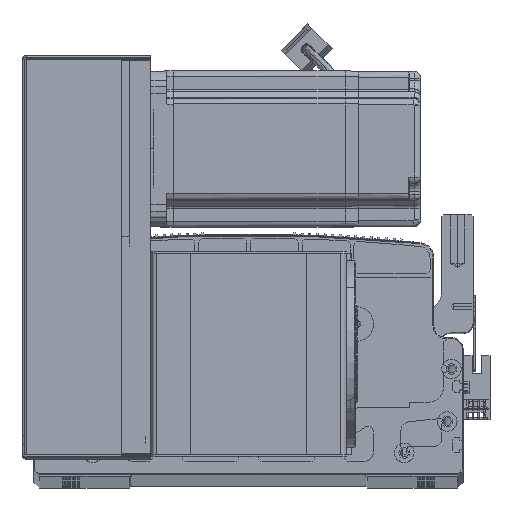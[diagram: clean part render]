
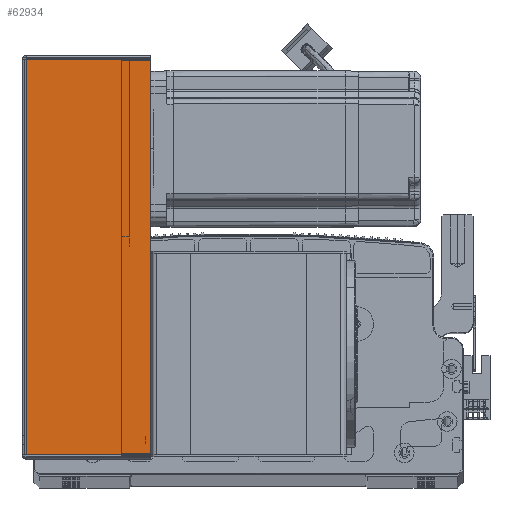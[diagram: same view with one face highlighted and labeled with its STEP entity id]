
A CAD part, top view. The second image highlights one B-rep face of the part: STEP entity #62934.
In plain terms, the highlighted planar face has unit normal (0, 0, 1) as drawn and (0, 1, 0) by its records, which use the part's own axes.
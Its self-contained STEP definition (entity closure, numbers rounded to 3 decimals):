
#3478 = DIRECTION ( 'NONE',  ( 0., -1., 0. ) ) ;
#7135 = VERTEX_POINT ( 'NONE', #59010 ) ;
#7483 = ORIENTED_EDGE ( 'NONE', *, *, #22495, .F. ) ;
#8963 = CARTESIAN_POINT ( 'NONE',  ( 0., 107.5, -0.707 ) ) ;
#9231 = CARTESIAN_POINT ( 'NONE',  ( 64.5, 107.5, -203.293 ) ) ;
#11431 = DIRECTION ( 'NONE',  ( 0., 0., -1. ) ) ;
#12183 = FACE_OUTER_BOUND ( 'NONE', #28350, .T. ) ;
#12297 = VECTOR ( 'NONE', #52132, 1000. ) ;
#12455 = CARTESIAN_POINT ( 'NONE',  ( 0.737, 107.5, 0. ) ) ;
#13898 = EDGE_CURVE ( 'NONE', #7135, #77736, #92337, .T. ) ;
#15411 = CARTESIAN_POINT ( 'NONE',  ( 0., 107.5, -203.293 ) ) ;
#19769 = VECTOR ( 'NONE', #101938, 1000. ) ;
#22495 = EDGE_CURVE ( 'NONE', #7135, #83961, #87518, .T. ) ;
#24088 = VECTOR ( 'NONE', #11431, 1000. ) ;
#24706 = LINE ( 'NONE', #15411, #19769 ) ;
#26289 = CARTESIAN_POINT ( 'NONE',  ( 64.5, 107.5, -204. ) ) ;
#28350 = EDGE_LOOP ( 'NONE', ( #7483, #64544, #54476, #98696 ) ) ;
#34123 = PLANE ( 'NONE',  #38114 ) ;
#36888 = VECTOR ( 'NONE', #64470, 1000. ) ;
#38114 = AXIS2_PLACEMENT_3D ( 'NONE', #42743, #3478, #50021 ) ;
#42586 = EDGE_CURVE ( 'NONE', #83961, #43723, #24706, .T. ) ;
#42743 = CARTESIAN_POINT ( 'NONE',  ( 0., 107.5, 0. ) ) ;
#42956 = CARTESIAN_POINT ( 'NONE',  ( 64.5, 107.5, -0.707 ) ) ;
#43723 = VERTEX_POINT ( 'NONE', #9231 ) ;
#50021 = DIRECTION ( 'NONE',  ( 1., 0., 0. ) ) ;
#52132 = DIRECTION ( 'NONE',  ( 0., 0., -1. ) ) ;
#53772 = CARTESIAN_POINT ( 'NONE',  ( 0.737, 107.5, -203.293 ) ) ;
#54476 = ORIENTED_EDGE ( 'NONE', *, *, #74690, .T. ) ;
#59010 = CARTESIAN_POINT ( 'NONE',  ( 0.737, 107.5, -0.707 ) ) ;
#62934 = ADVANCED_FACE ( 'NONE', ( #12183 ), #34123, .F. ) ;
#64470 = DIRECTION ( 'NONE',  ( 1., 0., 0. ) ) ;
#64544 = ORIENTED_EDGE ( 'NONE', *, *, #13898, .T. ) ;
#66030 = LINE ( 'NONE', #26289, #24088 ) ;
#74690 = EDGE_CURVE ( 'NONE', #77736, #43723, #66030, .T. ) ;
#77736 = VERTEX_POINT ( 'NONE', #42956 ) ;
#83961 = VERTEX_POINT ( 'NONE', #53772 ) ;
#87518 = LINE ( 'NONE', #12455, #12297 ) ;
#92337 = LINE ( 'NONE', #8963, #36888 ) ;
#98696 = ORIENTED_EDGE ( 'NONE', *, *, #42586, .F. ) ;
#101938 = DIRECTION ( 'NONE',  ( 1., 0., 0. ) ) ;
